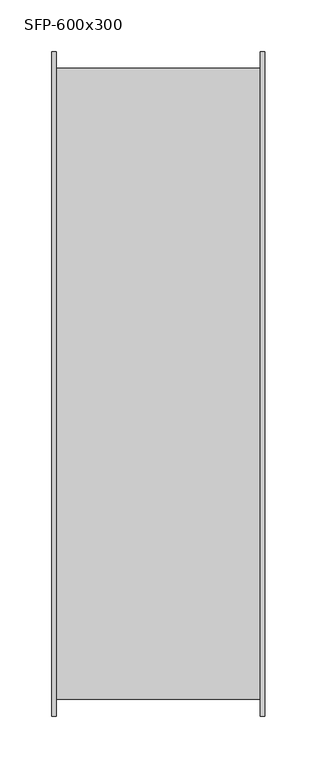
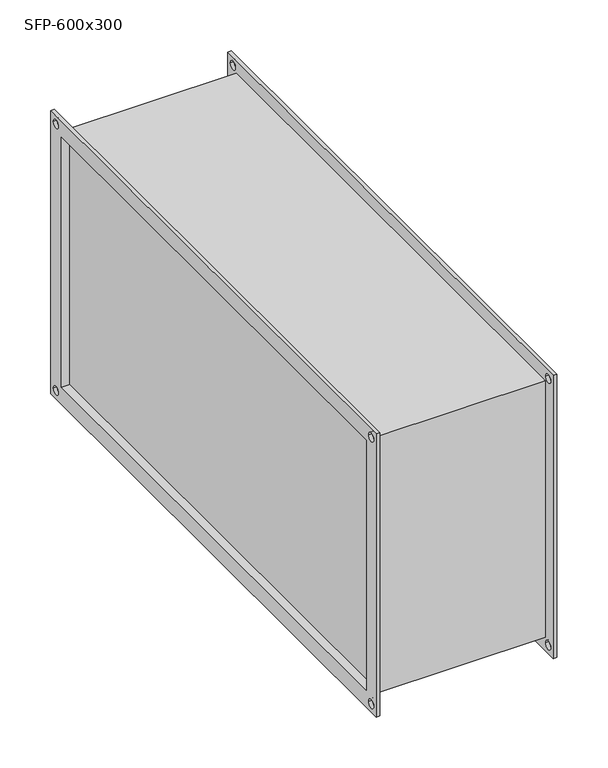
"""IFC4 building model written with IfcOpenShell, lengths in millimetres: damper geometry, СВ_ФильтрКассетный_КанальныйПрямоугольный_200-1000_SFP : SFP-600x300."""

from ifc_helpers import new_model, si_unit, frame, origin, place, context, project, spatial, polyline, circle_curve, outline, extrude, source, transform, mapped, element, save
from ifc_brep_helpers import plane_surface, revolved_surface, advanced_brep


def sfp_600x300_8e56e998(model_context):
    return source(origin(), model_context, "Body", "SolidModel", [
        extrude(outline(polyline([(92.5, 300.0), (92.5, -300.0), (-92.5, -300.0), (-92.5, 300.0), (92.5, 300.0)])), frame((0.0, 0.0, -150.0), z_axis=(0.0, 0.0, 1.0), x_axis=(1.0, 0.0, 0.0)), (0.0, 0.0, 1.0), 300.0),
        advanced_brep(
        [(98.5, -304.0, 154.0), (-98.5, -304.0, 154.0), (-98.5, -304.0, -154.0), (98.5, -304.0, -154.0), (-98.5, 304.0, -154.0), (98.5, 304.0, -154.0), (-98.5, 304.0, 154.0), (98.5, 304.0, 154.0), (-102.5, -320.0, 170.0), (-102.5, 320.0, 170.0), (-102.5, 320.0, -170.0), (-102.5, -320.0, -170.0), (-102.5, -300.0, 150.0), (-102.5, -300.0, -150.0), (-102.5, 300.0, -150.0), (-102.5, 300.0, 150.0), (-102.5, 305.0, 160.0), (-102.5, 315.0, 160.0), (-102.5, -315.0, 160.0), (-102.5, -305.0, 160.0), (-102.5, -315.0, -160.0), (-102.5, -305.0, -160.0), (-102.5, 305.0, -160.0), (-102.5, 315.0, -160.0), (-98.5, -320.0, 170.0), (-98.5, -320.0, -170.0), (-98.5, 320.0, -170.0), (-98.5, 320.0, 170.0), (-98.5, 315.0, 160.0), (-98.5, 305.0, 160.0), (-98.5, -305.0, 160.0), (-98.5, -315.0, 160.0), (-98.5, -305.0, -160.0), (-98.5, -315.0, -160.0), (-98.5, 315.0, -160.0), (-98.5, 305.0, -160.0), (98.5, 320.0, 170.0), (98.5, 320.0, -170.0), (98.5, -320.0, -170.0), (98.5, -320.0, 170.0), (98.5, 305.0, 160.0), (98.5, 315.0, 160.0), (98.5, -315.0, 160.0), (98.5, -305.0, 160.0), (98.5, -315.0, -160.0), (98.5, -305.0, -160.0), (98.5, 305.0, -160.0), (98.5, 315.0, -160.0), (102.5, 320.0, 170.0), (102.5, -320.0, 170.0), (102.5, -320.0, -170.0), (102.5, 320.0, -170.0), (102.5, 300.0, 150.0), (102.5, 300.0, -150.0), (102.5, -300.0, -150.0), (102.5, -300.0, 150.0), (102.5, 315.0, 160.0), (102.5, 305.0, 160.0), (102.5, -305.0, 160.0), (102.5, -315.0, 160.0), (102.5, -305.0, -160.0), (102.5, -315.0, -160.0), (102.5, 315.0, -160.0), (102.5, 305.0, -160.0)],
        [
            (0, 1),
            (1, 2),
            (2, 3),
            (3, 0),
            (2, 4),
            (4, 5),
            (5, 3),
            (4, 6),
            (6, 7),
            (7, 5),
            (0, 7),
            (6, 1),
            (8, 9),
            (9, 10),
            (10, 11),
            (11, 8),
            (12, 13),
            (13, 14),
            (14, 15),
            (15, 12),
            (16, 17, circle_curve(frame((-102.5, 310.0, 160.0), z_axis=(1.0, 0.0, 0.0), x_axis=(0.0, 1.0, 0.0)), 5.0)),
            (17, 16, circle_curve(frame((-102.5, 310.0, 160.0), z_axis=(1.0, 0.0, 0.0), x_axis=(0.0, 1.0, 0.0)), 5.0)),
            (18, 19, circle_curve(frame((-102.5, -310.0, 160.0), z_axis=(1.0, 0.0, 0.0), x_axis=(0.0, 1.0, 0.0)), 5.0)),
            (19, 18, circle_curve(frame((-102.5, -310.0, 160.0), z_axis=(1.0, 0.0, 0.0), x_axis=(0.0, 1.0, 0.0)), 5.0)),
            (20, 21, circle_curve(frame((-102.5, -310.0, -160.0), z_axis=(1.0, 0.0, 0.0), x_axis=(0.0, 1.0, 0.0)), 5.0)),
            (21, 20, circle_curve(frame((-102.5, -310.0, -160.0), z_axis=(1.0, 0.0, 0.0), x_axis=(0.0, 1.0, 0.0)), 5.0)),
            (22, 23, circle_curve(frame((-102.5, 310.0, -160.0), z_axis=(1.0, 0.0, 0.0), x_axis=(0.0, 1.0, 0.0)), 5.0)),
            (23, 22, circle_curve(frame((-102.5, 310.0, -160.0), z_axis=(1.0, 0.0, 0.0), x_axis=(0.0, 1.0, 0.0)), 5.0)),
            (24, 25),
            (25, 26),
            (26, 27),
            (27, 24),
            (28, 29, circle_curve(frame((-98.5, 310.0, 160.0), z_axis=(-1.0, 0.0, 0.0), x_axis=(0.0, 1.0, 0.0)), 5.0)),
            (29, 28, circle_curve(frame((-98.5, 310.0, 160.0), z_axis=(-1.0, 0.0, 0.0), x_axis=(0.0, 1.0, 0.0)), 5.0)),
            (30, 31, circle_curve(frame((-98.5, -310.0, 160.0), z_axis=(-1.0, 0.0, 0.0), x_axis=(0.0, 1.0, 0.0)), 5.0)),
            (31, 30, circle_curve(frame((-98.5, -310.0, 160.0), z_axis=(-1.0, 0.0, 0.0), x_axis=(0.0, 1.0, 0.0)), 5.0)),
            (32, 33, circle_curve(frame((-98.5, -310.0, -160.0), z_axis=(-1.0, 0.0, 0.0), x_axis=(0.0, 1.0, 0.0)), 5.0)),
            (33, 32, circle_curve(frame((-98.5, -310.0, -160.0), z_axis=(-1.0, 0.0, 0.0), x_axis=(0.0, 1.0, 0.0)), 5.0)),
            (34, 35, circle_curve(frame((-98.5, 310.0, -160.0), z_axis=(-1.0, 0.0, 0.0), x_axis=(0.0, 1.0, 0.0)), 5.0)),
            (35, 34, circle_curve(frame((-98.5, 310.0, -160.0), z_axis=(-1.0, 0.0, 0.0), x_axis=(0.0, 1.0, 0.0)), 5.0)),
            (11, 25),
            (24, 8),
            (10, 26),
            (9, 27),
            (36, 37),
            (37, 38),
            (38, 39),
            (39, 36),
            (40, 41, circle_curve(frame((98.5, 310.0, 160.0), z_axis=(1.0, 0.0, 0.0), x_axis=(0.0, 1.0, 0.0)), 5.0)),
            (41, 40, circle_curve(frame((98.5, 310.0, 160.0), z_axis=(1.0, 0.0, 0.0), x_axis=(0.0, 1.0, 0.0)), 5.0)),
            (42, 43, circle_curve(frame((98.5, -310.0, 160.0), z_axis=(1.0, 0.0, 0.0), x_axis=(0.0, 1.0, 0.0)), 5.0)),
            (43, 42, circle_curve(frame((98.5, -310.0, 160.0), z_axis=(1.0, 0.0, 0.0), x_axis=(0.0, 1.0, 0.0)), 5.0)),
            (44, 45, circle_curve(frame((98.5, -310.0, -160.0), z_axis=(1.0, 0.0, 0.0), x_axis=(0.0, 1.0, 0.0)), 5.0)),
            (45, 44, circle_curve(frame((98.5, -310.0, -160.0), z_axis=(1.0, 0.0, 0.0), x_axis=(0.0, 1.0, 0.0)), 5.0)),
            (46, 47, circle_curve(frame((98.5, 310.0, -160.0), z_axis=(1.0, 0.0, 0.0), x_axis=(0.0, 1.0, 0.0)), 5.0)),
            (47, 46, circle_curve(frame((98.5, 310.0, -160.0), z_axis=(1.0, 0.0, 0.0), x_axis=(0.0, 1.0, 0.0)), 5.0)),
            (48, 49),
            (49, 50),
            (50, 51),
            (51, 48),
            (52, 53),
            (53, 54),
            (54, 55),
            (55, 52),
            (56, 57, circle_curve(frame((102.5, 310.0, 160.0), z_axis=(-1.0, 0.0, 0.0), x_axis=(0.0, 1.0, 0.0)), 5.0)),
            (57, 56, circle_curve(frame((102.5, 310.0, 160.0), z_axis=(-1.0, 0.0, 0.0), x_axis=(0.0, 1.0, 0.0)), 5.0)),
            (58, 59, circle_curve(frame((102.5, -310.0, 160.0), z_axis=(-1.0, 0.0, 0.0), x_axis=(0.0, 1.0, 0.0)), 5.0)),
            (59, 58, circle_curve(frame((102.5, -310.0, 160.0), z_axis=(-1.0, 0.0, 0.0), x_axis=(0.0, 1.0, 0.0)), 5.0)),
            (60, 61, circle_curve(frame((102.5, -310.0, -160.0), z_axis=(-1.0, 0.0, 0.0), x_axis=(0.0, 1.0, 0.0)), 5.0)),
            (61, 60, circle_curve(frame((102.5, -310.0, -160.0), z_axis=(-1.0, 0.0, 0.0), x_axis=(0.0, 1.0, 0.0)), 5.0)),
            (62, 63, circle_curve(frame((102.5, 310.0, -160.0), z_axis=(-1.0, 0.0, 0.0), x_axis=(0.0, 1.0, 0.0)), 5.0)),
            (63, 62, circle_curve(frame((102.5, 310.0, -160.0), z_axis=(-1.0, 0.0, 0.0), x_axis=(0.0, 1.0, 0.0)), 5.0)),
            (39, 49),
            (48, 36),
            (38, 50),
            (37, 51),
            (15, 52),
            (55, 12),
            (14, 53),
            (13, 54),
            (16, 29),
            (28, 17),
            (40, 57),
            (56, 41),
            (18, 31),
            (30, 19),
            (42, 59),
            (58, 43),
            (20, 33),
            (32, 21),
            (44, 61),
            (60, 45),
            (22, 35),
            (34, 23),
            (46, 63),
            (62, 47),
        ],
        [
            plane_surface(frame((98.5, -304.0, 154.0), z_axis=(0.0, -1.0, 0.0), x_axis=(-1.0, 0.0, 0.0))),
            plane_surface(frame((98.5, -304.0, -154.0), z_axis=(0.0, 0.0, -1.0), x_axis=(-1.0, 0.0, 0.0))),
            plane_surface(frame((98.5, 304.0, -154.0), z_axis=(0.0, 1.0, 0.0), x_axis=(-1.0, 0.0, 0.0))),
            plane_surface(frame((98.5, 304.0, 154.0), z_axis=(0.0, 0.0, 1.0), x_axis=(-1.0, 0.0, 0.0))),
            plane_surface(frame((-102.5, -320.0, 170.0), z_axis=(-1.0, 0.0, 0.0), x_axis=(0.0, 0.0, 1.0))),
            plane_surface(frame((-98.5, -320.0, 170.0), z_axis=(1.0, 0.0, 0.0), x_axis=(0.0, 0.0, -1.0))),
            plane_surface(frame((-98.5, -320.0, 170.0), z_axis=(0.0, -1.0, 0.0), x_axis=(-1.0, 0.0, 0.0))),
            plane_surface(frame((-98.5, -320.0, -170.0), z_axis=(0.0, 0.0, -1.0), x_axis=(-1.0, 0.0, 0.0))),
            plane_surface(frame((-98.5, 320.0, -170.0), z_axis=(0.0, 1.0, 0.0), x_axis=(-1.0, 0.0, 0.0))),
            plane_surface(frame((-98.5, 320.0, 170.0), z_axis=(0.0, 0.0, 1.0), x_axis=(-1.0, 0.0, 0.0))),
            plane_surface(frame((98.5, 300.0, -150.0), z_axis=(-1.0, 0.0, 0.0), x_axis=(0.0, 0.0, 1.0))),
            plane_surface(frame((102.5, 300.0, -150.0), z_axis=(1.0, 0.0, 0.0), x_axis=(0.0, 0.0, -1.0))),
            plane_surface(frame((102.5, 320.0, 170.0), z_axis=(0.0, 0.0, 1.0), x_axis=(-1.0, 0.0, 0.0))),
            plane_surface(frame((102.5, -320.0, 170.0), z_axis=(0.0, -1.0, 0.0), x_axis=(-1.0, 0.0, 0.0))),
            plane_surface(frame((102.5, -320.0, -170.0), z_axis=(0.0, 0.0, -1.0), x_axis=(-1.0, 0.0, 0.0))),
            plane_surface(frame((102.5, 320.0, -170.0), z_axis=(0.0, 1.0, 0.0), x_axis=(-1.0, 0.0, 0.0))),
            plane_surface(frame((-98.5, -300.0, 150.0), z_axis=(0.0, 0.0, -1.0), x_axis=(-1.0, 0.0, 0.0))),
            plane_surface(frame((-98.5, 300.0, 150.0), z_axis=(0.0, -1.0, 0.0), x_axis=(-1.0, 0.0, 0.0))),
            plane_surface(frame((-98.5, 300.0, -150.0), z_axis=(0.0, 0.0, 1.0), x_axis=(-1.0, 0.0, 0.0))),
            plane_surface(frame((-98.5, -300.0, -150.0), z_axis=(0.0, 1.0, 0.0), x_axis=(-1.0, 0.0, 0.0))),
            revolved_surface(polyline([(-98.5, 315.0, 160.0), (-102.5, 315.0, 160.0)]), (-102.5, 310.0, 160.0), (1.0, 0.0, 0.0)),
            revolved_surface(polyline([(102.5, 315.0, 160.0), (98.5, 315.0, 160.0)]), (-102.5, 310.0, 160.0), (1.0, 0.0, 0.0)),
            revolved_surface(polyline([(-98.5, -305.0, 160.0), (-102.5, -305.0, 160.0)]), (0.0, -310.0, 160.0), (1.0, 0.0, 0.0)),
            revolved_surface(polyline([(102.5, -305.0, 160.0), (98.5, -305.0, 160.0)]), (0.0, -310.0, 160.0), (1.0, 0.0, 0.0)),
            revolved_surface(polyline([(-98.5, -305.0, -160.0), (-102.5, -305.0, -160.0)]), (0.0, -310.0, -160.0), (1.0, 0.0, 0.0)),
            revolved_surface(polyline([(102.5, -305.0, -160.0), (98.5, -305.0, -160.0)]), (0.0, -310.0, -160.0), (1.0, 0.0, 0.0)),
            revolved_surface(polyline([(-98.5, 315.0, -160.0), (-102.5, 315.0, -160.0)]), (0.0, 310.0, -160.0), (1.0, 0.0, 0.0)),
            revolved_surface(polyline([(102.5, 315.0, -160.0), (98.5, 315.0, -160.0)]), (0.0, 310.0, -160.0), (1.0, 0.0, 0.0)),
        ],
        [
            (0, [[1, 2, 3, 4]]),
            (1, [[-3, 5, 6, 7]]),
            (2, [[-6, 8, 9, 10]]),
            (3, [[-1, 11, -9, 12]]),
            (4, [[13, 14, 15, 16], [17, 18, 19, 20], [21, 22], [23, 24], [25, 26], [27, 28]]),
            (5, [[29, 30, 31, 32], [-2, -12, -8, -5], [33, 34], [35, 36], [37, 38], [39, 40]]),
            (6, [[-16, 41, -29, 42]]),
            (7, [[-15, 43, -30, -41]]),
            (8, [[-14, 44, -31, -43]]),
            (9, [[-13, -42, -32, -44]]),
            (10, [[45, 46, 47, 48], [-4, -7, -10, -11], [49, 50], [51, 52], [53, 54], [55, 56]]),
            (11, [[57, 58, 59, 60], [61, 62, 63, 64], [65, 66], [67, 68], [69, 70], [71, 72]]),
            (12, [[-48, 73, -57, 74]]),
            (13, [[-47, 75, -58, -73]]),
            (14, [[-46, 76, -59, -75]]),
            (15, [[-45, -74, -60, -76]]),
            (16, [[-20, 77, -64, 78]]),
            (17, [[-77, -19, 79, -61]]),
            (18, [[-79, -18, 80, -62]]),
            (19, [[-80, -17, -78, -63]]),
            (20, [[81, -33, 82, -21]]),
            (21, [[83, -65, 84, -49]]),
            (20, [[-81, -22, -82, -34]]),
            (21, [[-83, -50, -84, -66]]),
            (22, [[85, -35, 86, -23]]),
            (23, [[87, -67, 88, -51]]),
            (22, [[-85, -24, -86, -36]]),
            (23, [[-87, -52, -88, -68]]),
            (24, [[89, -37, 90, -25]]),
            (25, [[91, -69, 92, -53]]),
            (24, [[-89, -26, -90, -38]]),
            (25, [[-91, -54, -92, -70]]),
            (26, [[93, -39, 94, -27]]),
            (27, [[95, -71, 96, -55]]),
            (26, [[-93, -28, -94, -40]]),
            (27, [[-95, -56, -96, -72]]),
        ],
    ),
    ])


if __name__ == "__main__":
    model = new_model("IFC4")
    model_context = context("Model", 3, world=origin())
    ifc_project = project(units=[si_unit("LENGTHUNIT", "METRE", prefix="MILLI")], contexts=[model_context])
    site = spatial("IfcSite", under=ifc_project)
    building = spatial("IfcBuilding", under=site)
    placement = place(None, origin())
    sfp_600x300_shape = sfp_600x300_8e56e998(model_context)
    element("IfcDamper", 1, ObjectType="СВ_ФильтрКассетный_КанальныйПрямоугольный_200-1000_SFP : SFP-600x300", at=placement, inside=building, context=model_context, shape_type="MappedRepresentation", body=[
        mapped(sfp_600x300_shape, transform((0.0, 0.0, 0.0), x_axis=(1.0, 0.0, 0.0), y_axis=(0.0, 1.0, 0.0), z_axis=(0.0, 0.0, 1.0))),
    ])
    save(model, "model.ifc")
